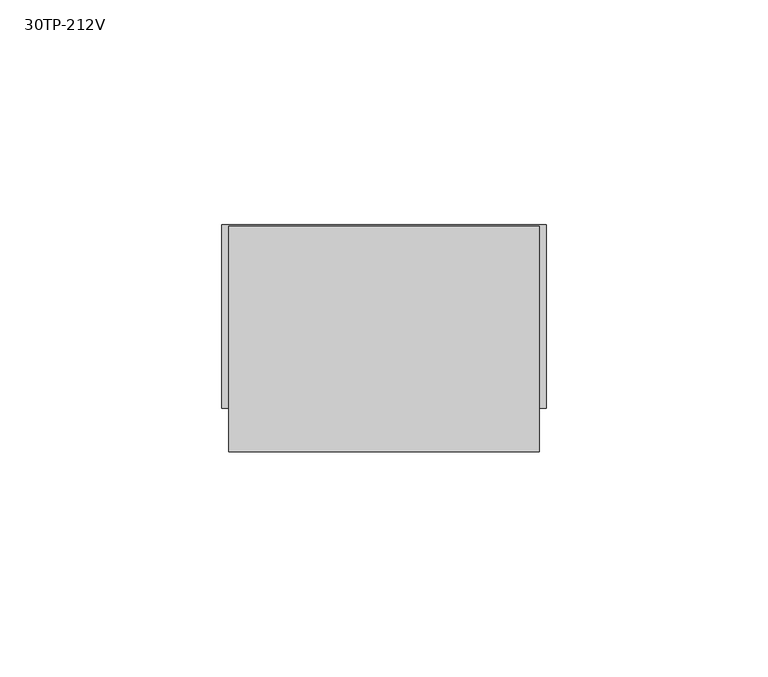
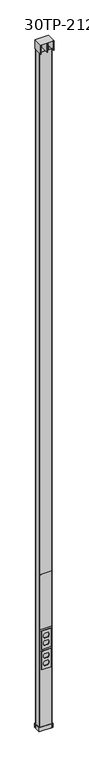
"""IFC4 building model written with IfcOpenShell, lengths in millimetres: proxy geometry, Vertical_Drop_Pole-Wiremold-Tele_Power_Pole-2V : 30TP-212V."""

from ifc_helpers import new_model, si_unit, point, frame, frame_2d, origin, origin_with_axes, place, context, project, spatial, polyline, circle_curve, trimmed, segment, composite_curve, outline, extrude, source, transform, mapped, element, save


def proxy_30tp_212v_0b07aedb(model_context):
    return source(origin(), model_context, "Body", "SweptSolid", [
        extrude(outline(polyline([(31.0, -15.9657638), (-31.0, -15.9657638), (-31.0, -14.9657638), (31.0, -14.9657638), (31.0, -15.9657638)])), frame((0.0, 0.0, 567.3552083), z_axis=(0.0, 0.0, 1.0), x_axis=(1.0, 0.0, 0.0)), (0.0, 0.0, 1.0), 306.3875),
        extrude(outline(polyline([(-0.8929688, -28.0704513), (-0.8929688, 22.7295487), (0.8929687, 22.7295487), (0.8929687, -28.0704513), (-0.8929688, -28.0704513)])), frame((0.0, 0.0, 3784.6), z_axis=(0.0, 0.0, 1.0), x_axis=(1.0, 0.0, 0.0)), (0.0, 0.0, 1.0), 50.8),
        extrude(outline(polyline([(-23.8969536, 21.1420487), (23.8969536, 21.1420487), (23.8969536, 19.5545487), (-23.8969536, 19.5545487), (-23.8969536, 21.1420487)])), frame((0.0, 0.0, 3757.6125), z_axis=(0.0, 0.0, 1.0), x_axis=(1.0, 0.0, 0.0)), (0.0, 0.0, 1.0), 26.9875),
        extrude(outline(polyline([(-33.3375, 22.7295487), (33.3375, 22.7295487), (33.3375, 21.1420487), (-33.3375, 21.1420487), (-33.3375, 22.7295487)])), frame((0.0, 0.0, 3784.6), z_axis=(0.0, 0.0, 1.0), x_axis=(1.0, 0.0, 0.0)), (0.0, 0.0, 1.0), 50.8),
        extrude(outline(polyline([(-34.925, -28.0704513), (-34.925, 22.7295487), (-33.3375, 22.7295487), (-33.3375, -28.0704513), (-34.925, -28.0704513)])), frame((0.0, 0.0, 3784.6), z_axis=(0.0, 0.0, 1.0), x_axis=(1.0, 0.0, 0.0)), (0.0, 0.0, 1.0), 50.8),
        extrude(outline(polyline([(33.3375, -28.0704513), (33.3375, 22.7295487), (34.925, 22.7295487), (34.925, -28.0704513), (33.3375, -28.0704513)])), frame((0.0, 0.0, 3784.6), z_axis=(0.0, 0.0, 1.0), x_axis=(1.0, 0.0, 0.0)), (0.0, 0.0, 1.0), 50.8),
        extrude(outline(polyline([(-34.925, -28.0704513), (-34.925, 22.7295487), (34.925, 22.7295487), (34.925, -28.0704513), (-34.925, -28.0704513)])), frame((0.0, 0.0, 3835.4), z_axis=(0.0, 0.0, 1.0), x_axis=(1.0, 0.0, 0.0)), (0.0, 0.0, 1.0), 1.5875),
        extrude(outline(polyline([(445.2663959, 25.4), (445.2663959, -25.4), (343.6663959, -25.4), (343.6663959, 25.4), (445.2663959, 25.4)]), holes=[composite_curve([segment(polyline([(428.349599, -7.9339585), (428.349599, 8.0597711)]), True, "CONTINUOUS"), segment(trimmed(circle_curve(frame_2d((416.2783271, 0.9957546)), 13.9862766), [point((428.349599, 8.0597711))], [point((416.2783271, 14.9820313))], True, "CARTESIAN"), True, "CONTINUOUS"), segment(polyline([(416.2783271, 14.9820313), (414.190824, 14.9820313)]), True, "CONTINUOUS"), segment(trimmed(circle_curve(frame_2d((414.190824, 0.9820313)), 14.0), [point((414.190824, 14.9820313))], [point((402.3542865, 8.4584194))], True, "CARTESIAN"), True, "CONTINUOUS"), segment(polyline([(402.3542865, 8.4584194), (402.3542865, -8.3446349)]), True, "CONTINUOUS"), segment(trimmed(circle_curve(frame_2d((414.3186008, -0.8801276)), 14.1019036), [point((402.3542865, -8.3446349))], [point((414.3186008, -14.9820312))], True, "CARTESIAN"), True, "CONTINUOUS"), segment(polyline([(414.3186008, -14.9820312), (416.2361259, -14.9820312)]), True, "CONTINUOUS"), segment(trimmed(circle_curve(frame_2d((416.2361259, -1.0483243)), 13.933707), [point((416.2361259, -14.9820312))], [point((428.349599, -7.9339585))], True, "CARTESIAN"), True, "CONTINUOUS")], self_intersect=False), composite_curve([segment(polyline([(386.5785052, -8.6075876), (386.5785052, 8.7168414)]), True, "CONTINUOUS"), segment(trimmed(circle_curve(frame_2d((374.9207619, 1.0035576)), 13.9784736), [point((386.5785052, 8.7168414))], [point((374.9207619, 14.9820313))], True, "CARTESIAN"), True, "CONTINUOUS"), segment(polyline([(374.9207619, 14.9820313), (372.8263017, 14.9820313)]), True, "CONTINUOUS"), segment(trimmed(circle_curve(frame_2d((372.8263017, 0.9731741)), 14.0088572), [point((372.8263017, 14.9820313))], [point((360.5831927, 7.7815778))], True, "CARTESIAN"), True, "CONTINUOUS"), segment(polyline([(360.5831927, 7.7815778), (360.5831927, -7.6594621)]), True, "CONTINUOUS"), segment(trimmed(circle_curve(frame_2d((372.9539054, -0.8712357)), 14.1107955), [point((360.5831927, -7.6594621))], [point((372.9539054, -14.9820312))], True, "CARTESIAN"), True, "CONTINUOUS"), segment(polyline([(372.9539054, -14.9820312), (374.8785806, -14.9820312)]), True, "CONTINUOUS"), segment(trimmed(circle_curve(frame_2d((374.8785806, -1.0575402)), 13.9244911), [point((374.8785806, -14.9820312))], [point((386.5785052, -8.6075876))], True, "CARTESIAN"), True, "CONTINUOUS")], self_intersect=False)]), frame((0.0, -19.1407638, 0.0), z_axis=(0.0, 1.0, 0.0), x_axis=(0.0, 0.0, 1.0)), (0.0, 0.0, 1.0), 3.175),
        extrude(outline(polyline([(557.8798176, 25.4), (557.8798176, -25.4), (456.2798176, -25.4), (456.2798176, 25.4), (557.8798176, 25.4)]), holes=[composite_curve([segment(polyline([(540.9630208, -7.9339585), (540.9630208, 8.0597711)]), True, "CONTINUOUS"), segment(trimmed(circle_curve(frame_2d((528.8917489, 0.9957546)), 13.9862766), [point((540.9630208, 8.0597711))], [point((528.8917489, 14.9820313))], True, "CARTESIAN"), True, "CONTINUOUS"), segment(polyline([(528.8917489, 14.9820313), (526.8042458, 14.9820313)]), True, "CONTINUOUS"), segment(trimmed(circle_curve(frame_2d((526.8042458, 0.9820313)), 14.0), [point((526.8042458, 14.9820313))], [point((514.9677083, 8.4584194))], True, "CARTESIAN"), True, "CONTINUOUS"), segment(polyline([(514.9677083, 8.4584194), (514.9677083, -8.3446349)]), True, "CONTINUOUS"), segment(trimmed(circle_curve(frame_2d((526.9320226, -0.8801276)), 14.1019036), [point((514.9677083, -8.3446349))], [point((526.9320226, -14.9820312))], True, "CARTESIAN"), True, "CONTINUOUS"), segment(polyline([(526.9320226, -14.9820312), (528.8495476, -14.9820312)]), True, "CONTINUOUS"), segment(trimmed(circle_curve(frame_2d((528.8495476, -1.0483243)), 13.933707), [point((528.8495476, -14.9820312))], [point((540.9630208, -7.9339585))], True, "CARTESIAN"), True, "CONTINUOUS")], self_intersect=False), composite_curve([segment(polyline([(499.191927, -8.6075876), (499.191927, 8.7168414)]), True, "CONTINUOUS"), segment(trimmed(circle_curve(frame_2d((487.5341837, 1.0035576)), 13.9784736), [point((499.191927, 8.7168414))], [point((487.5341837, 14.9820313))], True, "CARTESIAN"), True, "CONTINUOUS"), segment(polyline([(487.5341837, 14.9820313), (485.4397235, 14.9820313)]), True, "CONTINUOUS"), segment(trimmed(circle_curve(frame_2d((485.4397235, 0.9731741)), 14.0088572), [point((485.4397235, 14.9820313))], [point((473.1966145, 7.7815778))], True, "CARTESIAN"), True, "CONTINUOUS"), segment(polyline([(473.1966145, 7.7815778), (473.1966145, -7.6594621)]), True, "CONTINUOUS"), segment(trimmed(circle_curve(frame_2d((485.5673272, -0.8712357)), 14.1107955), [point((473.1966145, -7.6594621))], [point((485.5673272, -14.9820312))], True, "CARTESIAN"), True, "CONTINUOUS"), segment(polyline([(485.5673272, -14.9820312), (487.4920024, -14.9820312)]), True, "CONTINUOUS"), segment(trimmed(circle_curve(frame_2d((487.4920024, -1.0575402)), 13.9244911), [point((487.4920024, -14.9820312))], [point((499.191927, -8.6075876))], True, "CARTESIAN"), True, "CONTINUOUS")], self_intersect=False)]), frame((0.0, -19.1407638, 0.0), z_axis=(0.0, 1.0, 0.0), x_axis=(0.0, 0.0, 1.0)), (0.0, 0.0, 1.0), 3.175),
        extrude(outline(composite_curve([segment(trimmed(circle_curve(frame_2d((30.925, 18.1342362)), 4.0), [point((30.925, 22.1342362))], [point((34.925, 18.1342362))], False, "CARTESIAN"), True, "CONTINUOUS"), segment(polyline([(34.925, 18.1342362), (34.925, -11.9657638)]), True, "CONTINUOUS"), segment(trimmed(circle_curve(frame_2d((30.925, -11.9657638)), 4.0), [point((34.925, -11.9657638))], [point((30.925, -15.9657638))], False, "CARTESIAN"), True, "CONTINUOUS"), segment(polyline([(30.925, -15.9657638), (-30.925, -15.9657638)]), True, "CONTINUOUS"), segment(trimmed(circle_curve(frame_2d((-30.925, -11.9657638)), 4.0), [point((-30.925, -15.9657638))], [point((-34.925, -11.9657638))], False, "CARTESIAN"), True, "CONTINUOUS"), segment(polyline([(-34.925, -11.9657638), (-34.925, 18.1342362)]), True, "CONTINUOUS"), segment(trimmed(circle_curve(frame_2d((-30.925, 18.1342362)), 4.0), [point((-34.925, 18.1342362))], [point((-30.925, 22.1342362))], False, "CARTESIAN"), True, "CONTINUOUS"), segment(polyline([(-30.925, 22.1342362), (30.925, 22.1342362)]), True, "CONTINUOUS")], self_intersect=False), holes=[composite_curve([segment(trimmed(circle_curve(frame_2d((-29.925, -10.9657638)), 4.0), [point((-33.925, -10.9657638))], [point((-29.925, -14.9657638))], True, "CARTESIAN"), True, "CONTINUOUS"), segment(polyline([(-29.925, -14.9657638), (29.925, -14.9657638)]), True, "CONTINUOUS"), segment(trimmed(circle_curve(frame_2d((29.925, -10.9657638)), 4.0), [point((29.925, -14.9657638))], [point((33.925, -10.9657638))], True, "CARTESIAN"), True, "CONTINUOUS"), segment(polyline([(33.925, -10.9657638), (33.925, 17.1342362)]), True, "CONTINUOUS"), segment(trimmed(circle_curve(frame_2d((29.925, 17.1342362)), 4.0), [point((33.925, 17.1342362))], [point((29.925, 21.1342362))], True, "CARTESIAN"), True, "CONTINUOUS"), segment(polyline([(29.925, 21.1342362), (-29.925, 21.1342362)]), True, "CONTINUOUS"), segment(trimmed(circle_curve(frame_2d((-29.925, 17.1342362)), 4.0), [point((-29.925, 21.1342362))], [point((-33.925, 17.1342362))], True, "CARTESIAN"), True, "CONTINUOUS"), segment(polyline([(-33.925, 17.1342362), (-33.925, -10.9657638)]), True, "CONTINUOUS")], self_intersect=False)]), origin_with_axes(), (0.0, 0.0, 1.0), 3784.6),
        extrude(outline(polyline([(-36.5125, 23.7217362), (36.5125, 23.7217362), (36.5125, -17.5532638), (-36.5125, -17.5532638), (-36.5125, 23.7217362)]), holes=[polyline([(34.925, 22.1342362), (-34.925, 22.1342362), (-34.925, -15.9657638), (34.925, -15.9657638), (34.925, 22.1342362)])]), origin_with_axes(), (0.0, 0.0, 1.0), 23.8125),
    ])


if __name__ == "__main__":
    model = new_model("IFC4")
    model_context = context("Model", 3, world=origin())
    ifc_project = project(units=[si_unit("LENGTHUNIT", "METRE", prefix="MILLI")], contexts=[model_context])
    site = spatial("IfcSite", under=ifc_project)
    building = spatial("IfcBuilding", under=site)
    placement = place(None, origin())
    proxy_30tp_212v_shape = proxy_30tp_212v_0b07aedb(model_context)
    element("IfcBuildingElementProxy", 1, Name="Vertical_Drop_Pole-Wiremold-Tele_Power_Pole-2V : 30TP-212V", ObjectType="Vertical_Drop_Pole-Wiremold-Tele_Power_Pole-2V : 30TP-212V", at=placement, inside=building, context=model_context, shape_type="MappedRepresentation", body=[
        mapped(proxy_30tp_212v_shape, transform((0.0, 0.0, 0.0), x_axis=(1.0, 0.0, 0.0), y_axis=(0.0, 1.0, 0.0), z_axis=(0.0, 0.0, 1.0))),
    ])
    save(model, "model.ifc")
